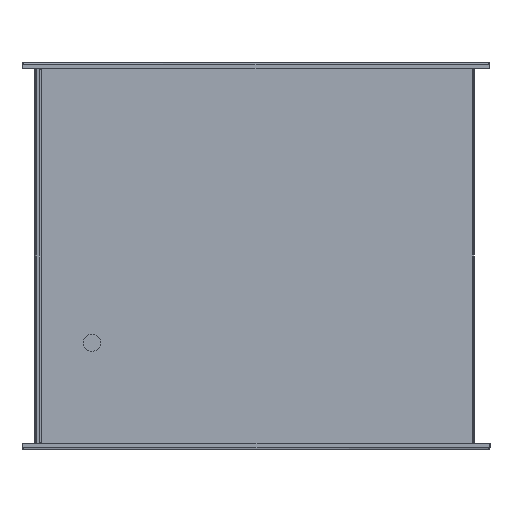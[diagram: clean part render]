
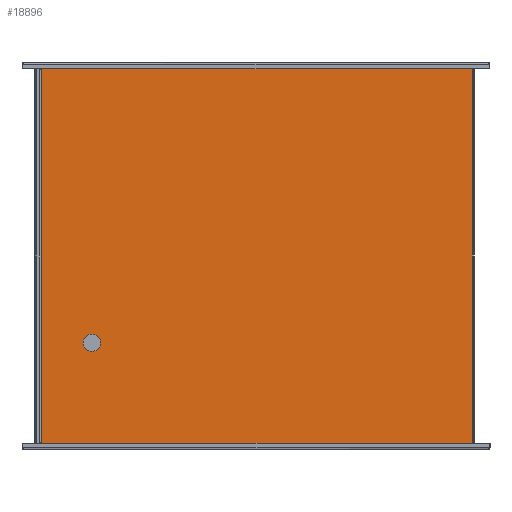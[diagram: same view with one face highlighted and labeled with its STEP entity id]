
A CAD part, left-side view. The second image highlights one B-rep face of the part: STEP entity #18896.
In plain terms, the highlighted planar face has unit normal (-1, 0, 0).
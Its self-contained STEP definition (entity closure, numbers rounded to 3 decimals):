
#85 = CARTESIAN_POINT ( 'NONE',  ( -500., 1.3, 0. ) ) ;
#86 = DIRECTION ( 'NONE',  ( 0., 0., 1. ) ) ;
#408 = CARTESIAN_POINT ( 'NONE',  ( -500., 498.7, -219.7 ) ) ;
#430 = CARTESIAN_POINT ( 'NONE',  ( -500., 448.7, -99.7 ) ) ;
#520 = CARTESIAN_POINT ( 'NONE',  ( -500., 1.3, 219.7 ) ) ;
#577 = CARTESIAN_POINT ( 'NONE',  ( -500., 1.3, -219.7 ) ) ;
#600 = CARTESIAN_POINT ( 'NONE',  ( -500., 498.7, 219.7 ) ) ;
#603 = CARTESIAN_POINT ( 'NONE',  ( -500., 428.7, -99.7 ) ) ;
#1604 = CIRCLE ( 'NONE', #7465, 10. ) ;
#1667 = LINE ( 'NONE', #21953, #1673 ) ;
#1673 = VECTOR ( 'NONE', #21954, 1000. ) ;
#4043 = CARTESIAN_POINT ( 'NONE',  ( -500., 438.7, -99.7 ) ) ;
#4044 = DIRECTION ( 'NONE',  ( -1., 0., 0. ) ) ;
#4045 = DIRECTION ( 'NONE',  ( 0., -1., 0. ) ) ;
#4128 = CARTESIAN_POINT ( 'NONE',  ( -500., 1.3, 219.7 ) ) ;
#4129 = DIRECTION ( 'NONE',  ( 0., 1., 0. ) ) ;
#4365 = CARTESIAN_POINT ( 'NONE',  ( -500., 0., 0. ) ) ;
#4371 = PLANE ( 'NONE',  #15706 ) ;
#4373 = DIRECTION ( 'NONE',  ( -1., 0., 0. ) ) ;
#4374 = DIRECTION ( 'NONE',  ( 0., -1., 0. ) ) ;
#5600 = EDGE_CURVE ( 'NONE', #12909, #13220, #10150, .T. ) ;
#5740 = EDGE_CURVE ( 'NONE', #13272, #12931, #1604, .T. ) ;
#5772 = EDGE_CURVE ( 'NONE', #13266, #12909, #1667, .T. ) ;
#6896 = EDGE_CURVE ( 'NONE', #12931, #13272, #21544, .T. ) ;
#7037 = EDGE_CURVE ( 'NONE', #13106, #13266, #21603, .T. ) ;
#7270 = EDGE_CURVE ( 'NONE', #13220, #13106, #21652, .T. ) ;
#7465 = AXIS2_PLACEMENT_3D ( 'NONE', #21880, #21881, #21882 ) ;
#10150 = LINE ( 'NONE', #20270, #10153 ) ;
#10153 = VECTOR ( 'NONE', #20265, 1000. ) ;
#12909 = VERTEX_POINT ( 'NONE', #408 ) ;
#12931 = VERTEX_POINT ( 'NONE', #430 ) ;
#13106 = VERTEX_POINT ( 'NONE', #520 ) ;
#13220 = VERTEX_POINT ( 'NONE', #577 ) ;
#13266 = VERTEX_POINT ( 'NONE', #600 ) ;
#13272 = VERTEX_POINT ( 'NONE', #603 ) ;
#15251 = AXIS2_PLACEMENT_3D ( 'NONE', #4043, #4044, #4045 ) ;
#15706 = AXIS2_PLACEMENT_3D ( 'NONE', #4365, #4373, #4374 ) ;
#16595 = FACE_BOUND ( 'NONE', #19431, .T. ) ;
#16598 = FACE_OUTER_BOUND ( 'NONE', #19425, .T. ) ;
#17023 = ORIENTED_EDGE ( 'NONE', *, *, #7037, .T. ) ;
#17844 = ORIENTED_EDGE ( 'NONE', *, *, #5740, .F. ) ;
#18025 = ORIENTED_EDGE ( 'NONE', *, *, #7270, .T. ) ;
#18026 = ORIENTED_EDGE ( 'NONE', *, *, #5600, .T. ) ;
#18028 = ORIENTED_EDGE ( 'NONE', *, *, #5772, .T. ) ;
#18031 = ORIENTED_EDGE ( 'NONE', *, *, #6896, .F. ) ;
#18896 = ADVANCED_FACE ( 'NONE', ( #16595, #16598 ), #4371, .T. ) ;
#19425 = EDGE_LOOP ( 'NONE', ( #18028, #18026, #18025, #17023 ) ) ;
#19431 = EDGE_LOOP ( 'NONE', ( #17844, #18031 ) ) ;
#20265 = DIRECTION ( 'NONE',  ( 0., -1., 0. ) ) ;
#20270 = CARTESIAN_POINT ( 'NONE',  ( -500., 498.7, -219.7 ) ) ;
#21544 = CIRCLE ( 'NONE', #15251, 10. ) ;
#21603 = LINE ( 'NONE', #4128, #21605 ) ;
#21605 = VECTOR ( 'NONE', #4129, 1000. ) ;
#21652 = LINE ( 'NONE', #85, #21655 ) ;
#21655 = VECTOR ( 'NONE', #86, 1000. ) ;
#21880 = CARTESIAN_POINT ( 'NONE',  ( -500., 438.7, -99.7 ) ) ;
#21881 = DIRECTION ( 'NONE',  ( -1., 0., 0. ) ) ;
#21882 = DIRECTION ( 'NONE',  ( 0., -1., 0. ) ) ;
#21953 = CARTESIAN_POINT ( 'NONE',  ( -500., 498.7, 222. ) ) ;
#21954 = DIRECTION ( 'NONE',  ( 0., 0., -1. ) ) ;
